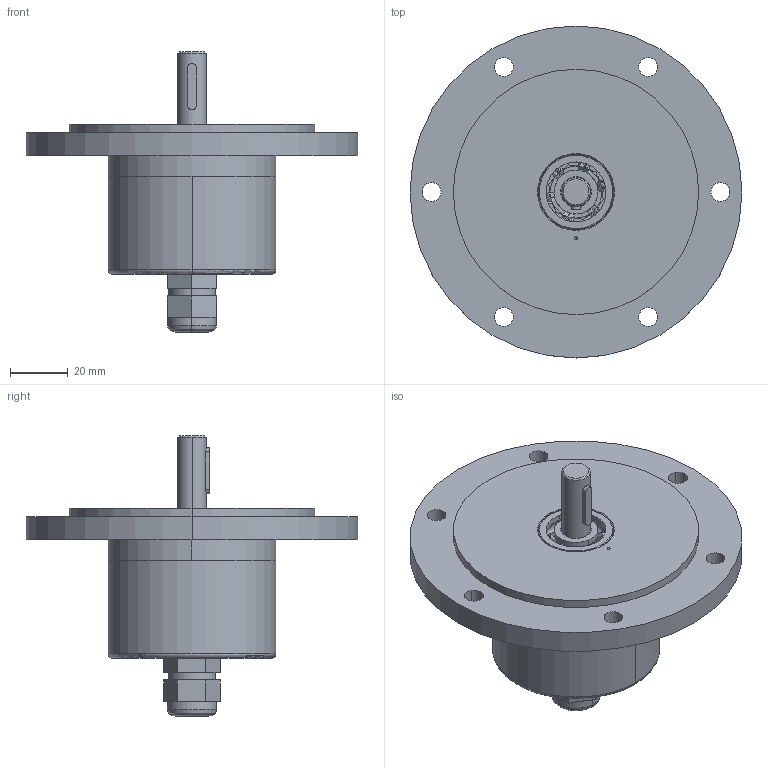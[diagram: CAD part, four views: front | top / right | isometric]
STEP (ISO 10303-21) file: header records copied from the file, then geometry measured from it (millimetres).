
FILE_DESCRIPTION((''),'2;1');
FILE_NAME('V:\WDG-Artikel\1\115TxxxxxxK2\04_Mechan_Konstruktionsunterlagen\115TxxxxxxK2.stp','2006-04-28T09:40:49',('hm'),(''),'Autodesk Inventor 9','Autodesk Inventor 9','');
FILE_SCHEMA(('AUTOMOTIVE_DESIGN { 1 0 10303 214 1 1 1 1 }'));
Length unit declared in the file: millimetre
Products named in the file (12): 115TxxxxxxK2; BGMKG00000; WE15T10000_00; FL058B0180_00; MKDH261000_00; DIN 625 - T1 6000 - 10 x 26 x 8; DIN 6885  A A 3 x 3 x 16; BGDEK2I000; DE580K2000_00; KDP09AM000_4-8mm_Protec; MUMPG90000; DIN EN ISO 7046-1  H  (Regelgewinde) M3 x 30 - 4.8 - H
Assembly tree (13 placements, depth 3):
  115TxxxxxxK2
    BGMKG00000
      WE15T10000_00
      FL058B0180_00
      MKDH261000_00
      DIN 625 - T1 6000 - 10 x 26 x 8  x2
      DIN 6885  A A 3 x 3 x 16
    BGDEK2I000
      DE580K2000_00
      KDP09AM000_4-8mm_Protec
      MUMPG90000
      DIN EN ISO 7046-1  H  (Regelgewinde) M3 x 30 - 4.8 - H  x2
Bounding box: 115 x 115 x 97 mm (x, y, z)
Volume: 147512.6 mm3; surface area: 61373.6 mm2
Topology: 11 solids, 21 shells, 443 faces, 1138 edges, 658 vertices
Faces by surface type: bspline 145, cylinder 91, plane 89, cone 54, torus 40, sphere 24
Entity records: 22032 total; most frequent: CARTESIAN_POINT 14086, DIRECTION 1662, ORIENTED_EDGE 1600, EDGE_CURVE 800, AXIS2_PLACEMENT_3D 695, VERTEX_POINT 493, CIRCLE 448, EDGE_LOOP 397
